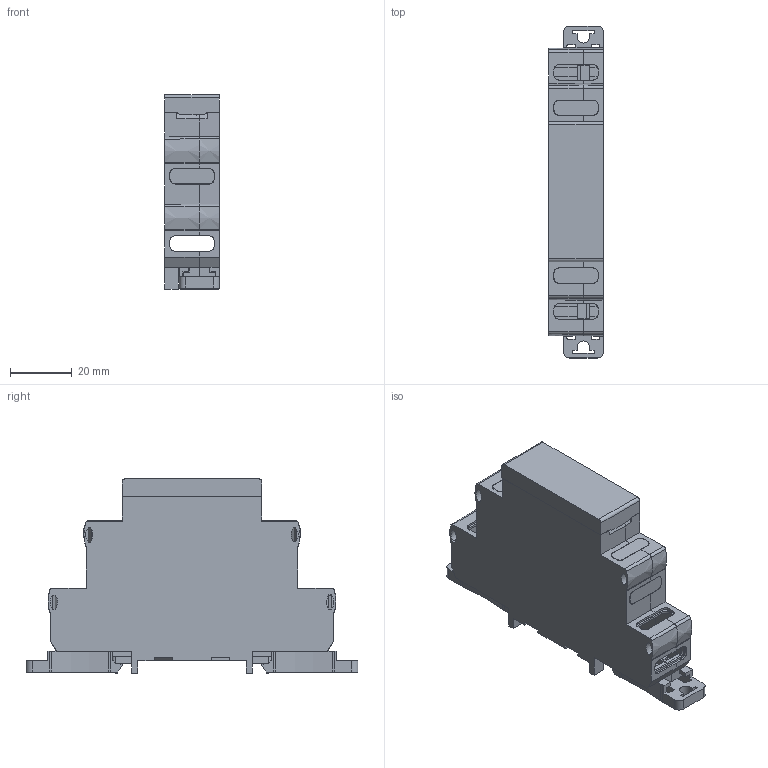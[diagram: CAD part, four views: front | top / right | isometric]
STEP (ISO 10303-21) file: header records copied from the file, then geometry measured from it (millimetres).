
FILE_DESCRIPTION(('STEP AP203'), '1');
FILE_NAME('Case152 assembly', '', ('UNSPECIFIED'), ('UNSPECIFIED'), 'ASCON STEP Converter 1.6', 'ASCON Math Kernel', '');
FILE_SCHEMA(('CONFIG_CONTROL_DESIGN'));
Length unit declared in the file: millimetre
Products named in the file (6): ___Case13-18-23mm_2step_v01_Build20140909_1552; Case18mm_2step_Half_6.5mm; Case18mm_2step_Half_11.25mm; Case18mm_2step_Lock; Case18mm_2step_Face; Case18mm_2step_plug
Assembly tree (9 placements, depth 2):
  ___Case13-18-23mm_2step_v01_Build20140909_1552
    Case18mm_2step_Half_6.5mm
    Case18mm_2step_Half_11.25mm
    Case18mm_2step_Lock  x2
    Case18mm_2step_Face
    Case18mm_2step_plug  x4
Bounding box: 17.75 x 107.2 x 62.75 mm (x, y, z)
Volume: 19094.3 mm3; surface area: 34599.2 mm2
Topology: 9 solids, 9 shells, 1248 faces, 3636 edges, 2398 vertices
Faces by surface type: plane 960, cylinder 248, cone 24, sphere 8, bspline 4, torus 4
Entity records: 44567 total; most frequent: CARTESIAN_POINT 6611, ORIENTED_EDGE 6332, DIRECTION 5674, EDGE_CURVE 3166, LINE 2748, VECTOR 2748, VERTEX_POINT 2096, AXIS2_PLACEMENT_3D 1463
